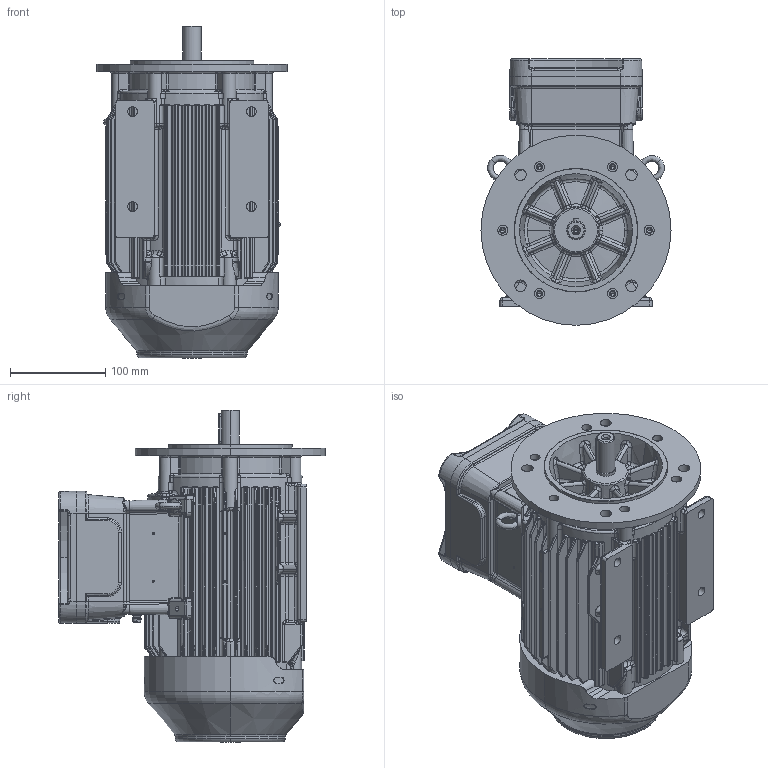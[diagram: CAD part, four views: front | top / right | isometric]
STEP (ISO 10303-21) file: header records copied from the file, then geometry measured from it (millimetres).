
FILE_DESCRIPTION (( 'STEP AP214' ), '1' );
FILE_NAME ('6RD80MB4E3 IM2001.STEP', '2021-07-23T06:47:16', ( '' ), ( '' ), 'SwSTEP 2.0', 'SolidWorks 2018', '' );
FILE_SCHEMA (( 'AUTOMOTIVE_DESIGN' ));
Products named in the file (1): 6RD80MB4E3 IM2001
Bounding box: 200 x 280.5 x 349.25 mm (x, y, z)
Volume: 7842207.8 mm3; surface area: 473387.4 mm2
Topology: 1 solids, 30 shells, 3322 faces, 8076 edges, 4765 vertices
Faces by surface type: cylinder 1272, bspline 839, plane 559, torus 284, cone 205, sphere 163
Entity records: 146165 total; most frequent: CARTESIAN_POINT 76707, ORIENTED_EDGE 15710, DIRECTION 13296, EDGE_CURVE 7855, AXIS2_PLACEMENT_3D 5559, VERTEX_POINT 4755, EDGE_LOOP 3512, FACE_OUTER_BOUND 3322
